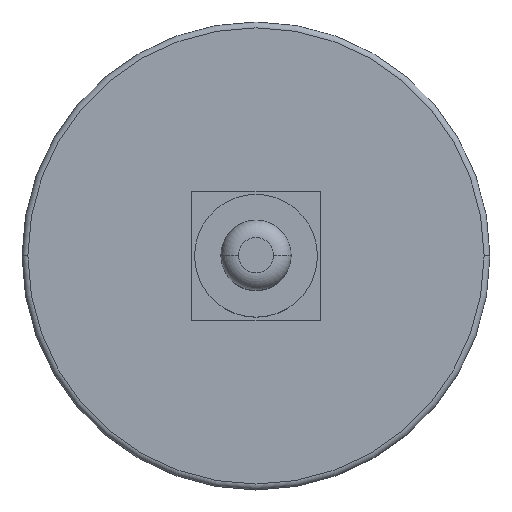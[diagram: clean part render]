
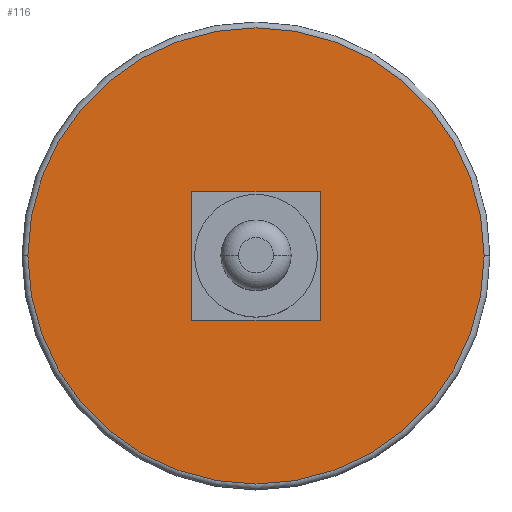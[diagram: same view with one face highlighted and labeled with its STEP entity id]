
A CAD part, top view. The second image highlights one B-rep face of the part: STEP entity #116.
In plain terms, the highlighted planar face has unit normal (0, 0, 1).
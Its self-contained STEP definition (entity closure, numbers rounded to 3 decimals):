
#3 = DIRECTION ( 'NONE',  ( 1., 0., 0. ) ) ;
#13 = DIRECTION ( 'NONE',  ( 0., 1., 0. ) ) ;
#14 = VECTOR ( 'NONE', #268, 1000. ) ;
#35 = CARTESIAN_POINT ( 'NONE',  ( 0., 0., 10.5 ) ) ;
#50 = LINE ( 'NONE', #282, #191 ) ;
#52 = DIRECTION ( 'NONE',  ( 1., 0., 0. ) ) ;
#70 = VERTEX_POINT ( 'NONE', #314 ) ;
#72 = CARTESIAN_POINT ( 'NONE',  ( 0., 0., 10.5 ) ) ;
#85 = VECTOR ( 'NONE', #13, 1000. ) ;
#86 = LINE ( 'NONE', #88, #14 ) ;
#88 = CARTESIAN_POINT ( 'NONE',  ( -11., 11., 10.5 ) ) ;
#116 = ADVANCED_FACE ( 'NONE', ( #525, #345 ), #302, .T. ) ;
#150 = CIRCLE ( 'NONE', #256, 39. ) ;
#155 = VERTEX_POINT ( 'NONE', #446 ) ;
#157 = EDGE_CURVE ( 'NONE', #422, #201, #234, .T. ) ;
#169 = EDGE_LOOP ( 'NONE', ( #240, #311 ) ) ;
#191 = VECTOR ( 'NONE', #3, 1000. ) ;
#193 = CARTESIAN_POINT ( 'NONE',  ( 11., 11., 10.5 ) ) ;
#201 = VERTEX_POINT ( 'NONE', #413 ) ;
#220 = DIRECTION ( 'NONE',  ( 0., 0., 1. ) ) ;
#222 = CARTESIAN_POINT ( 'NONE',  ( -39., 0., 10.5 ) ) ;
#229 = EDGE_CURVE ( 'NONE', #201, #422, #150, .T. ) ;
#233 = EDGE_CURVE ( 'NONE', #70, #428, #50, .T. ) ;
#234 = CIRCLE ( 'NONE', #430, 39. ) ;
#235 = DIRECTION ( 'NONE',  ( 0., 0., 1. ) ) ;
#240 = ORIENTED_EDGE ( 'NONE', *, *, #229, .T. ) ;
#241 = VECTOR ( 'NONE', #292, 1000. ) ;
#256 = AXIS2_PLACEMENT_3D ( 'NONE', #329, #235, #52 ) ;
#258 = DIRECTION ( 'NONE',  ( 0., 0., 1. ) ) ;
#268 = DIRECTION ( 'NONE',  ( -1., 0., 0. ) ) ;
#271 = ORIENTED_EDGE ( 'NONE', *, *, #385, .F. ) ;
#282 = CARTESIAN_POINT ( 'NONE',  ( -11., -11., 10.5 ) ) ;
#292 = DIRECTION ( 'NONE',  ( 0., -1., 0. ) ) ;
#300 = EDGE_LOOP ( 'NONE', ( #271, #319, #572, #348 ) ) ;
#302 = PLANE ( 'NONE',  #400 ) ;
#309 = EDGE_CURVE ( 'NONE', #155, #70, #505, .T. ) ;
#311 = ORIENTED_EDGE ( 'NONE', *, *, #157, .T. ) ;
#314 = CARTESIAN_POINT ( 'NONE',  ( -11., -11., 10.5 ) ) ;
#319 = ORIENTED_EDGE ( 'NONE', *, *, #233, .F. ) ;
#329 = CARTESIAN_POINT ( 'NONE',  ( 0., 0., 10.5 ) ) ;
#337 = LINE ( 'NONE', #340, #85 ) ;
#340 = CARTESIAN_POINT ( 'NONE',  ( 11., 11., 10.5 ) ) ;
#345 = FACE_BOUND ( 'NONE', #300, .T. ) ;
#348 = ORIENTED_EDGE ( 'NONE', *, *, #454, .F. ) ;
#371 = CARTESIAN_POINT ( 'NONE',  ( -11., 11., 10.5 ) ) ;
#385 = EDGE_CURVE ( 'NONE', #428, #389, #337, .T. ) ;
#389 = VERTEX_POINT ( 'NONE', #193 ) ;
#400 = AXIS2_PLACEMENT_3D ( 'NONE', #72, #258, #439 ) ;
#413 = CARTESIAN_POINT ( 'NONE',  ( 39., 0., 10.5 ) ) ;
#422 = VERTEX_POINT ( 'NONE', #222 ) ;
#428 = VERTEX_POINT ( 'NONE', #573 ) ;
#430 = AXIS2_PLACEMENT_3D ( 'NONE', #35, #220, #593 ) ;
#439 = DIRECTION ( 'NONE',  ( 1., 0., 0. ) ) ;
#446 = CARTESIAN_POINT ( 'NONE',  ( -11., 11., 10.5 ) ) ;
#454 = EDGE_CURVE ( 'NONE', #389, #155, #86, .T. ) ;
#505 = LINE ( 'NONE', #371, #241 ) ;
#525 = FACE_OUTER_BOUND ( 'NONE', #169, .T. ) ;
#572 = ORIENTED_EDGE ( 'NONE', *, *, #309, .F. ) ;
#573 = CARTESIAN_POINT ( 'NONE',  ( 11., -11., 10.5 ) ) ;
#593 = DIRECTION ( 'NONE',  ( 1., 0., 0. ) ) ;
